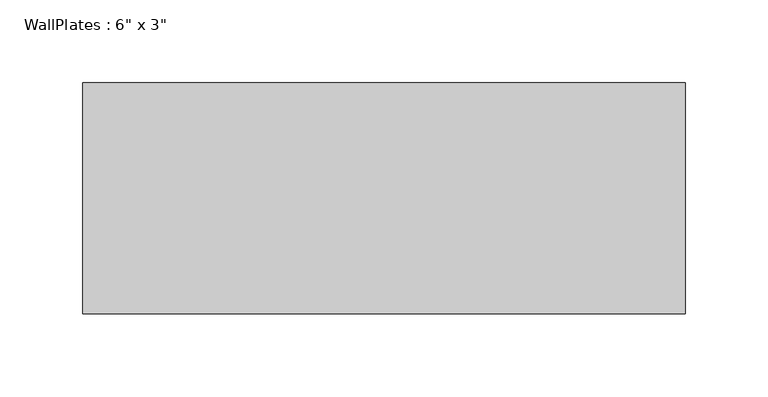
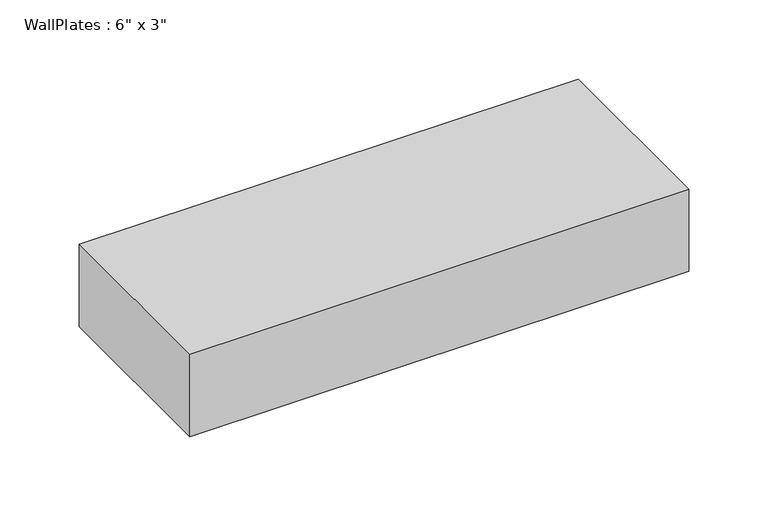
"""IFC4 building model written with IfcOpenShell, lengths in millimetres: beam geometry."""

from ifc_helpers import new_model, si_unit, frame, origin, place, context, project, spatial, polyline, outline, extrude, source, transform, mapped, element, save


def beam_7d733e46(model_context):
    return source(origin(), model_context, "Body", "SweptSolid", [
        extrude(outline(polyline([(-182.0383333, -69.85), (-182.0383333, 69.85), (182.0383333, 69.85), (182.0383333, -69.85), (-182.0383333, -69.85)])), frame((0.0, 0.0, -31.75), z_axis=(0.0, 0.0, 1.0), x_axis=(1.0, 0.0, 0.0)), (0.0, 0.0, 1.0), 63.5),
    ])


if __name__ == "__main__":
    model = new_model("IFC4")
    model_context = context("Model", 3, world=origin())
    ifc_project = project(units=[si_unit("LENGTHUNIT", "METRE", prefix="MILLI")], contexts=[model_context])
    site = spatial("IfcSite", under=ifc_project)
    building = spatial("IfcBuilding", under=site)
    placement = place(None, origin())
    beam_shape = beam_7d733e46(model_context)
    element("IfcBeam", 1, ObjectType="WallPlates : 6\" x 3\"", at=placement, inside=building, context=model_context, shape_type="MappedRepresentation", body=[
        mapped(beam_shape, transform((0.0, 0.0, 0.0), x_axis=(1.0, 0.0, 0.0), y_axis=(0.0, 1.0, 0.0), z_axis=(0.0, 0.0, 1.0))),
    ])
    save(model, "model.ifc")
